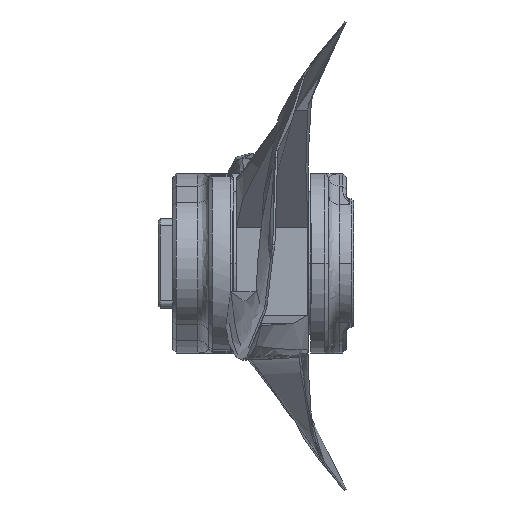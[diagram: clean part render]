
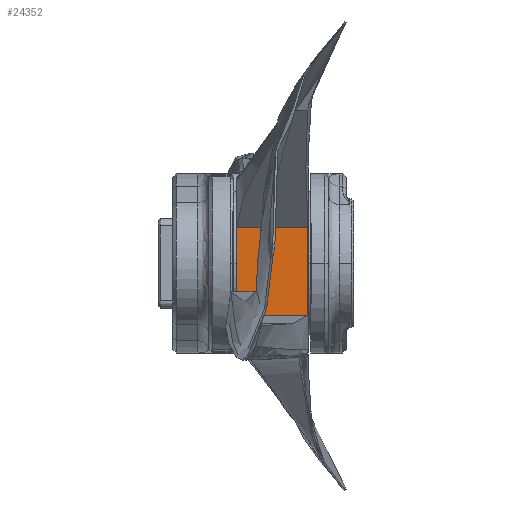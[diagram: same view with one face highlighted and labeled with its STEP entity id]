
A CAD part, left-side view. The second image highlights one B-rep face of the part: STEP entity #24352.
In plain terms, the highlighted planar face has unit normal (-1, 0, -0.012).
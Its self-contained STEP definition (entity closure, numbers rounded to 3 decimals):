
#1709 = CARTESIAN_POINT ( 'NONE',  ( -77.685, -10.61, -14.447 ) ) ;
#2749 = DIRECTION ( 'NONE',  ( 0., -1., 0. ) ) ;
#5032 = CARTESIAN_POINT ( 'NONE',  ( -77.838, 9.264, -2.174 ) ) ;
#5743 = CARTESIAN_POINT ( 'NONE',  ( -77.685, -22.162, -14.447 ) ) ;
#7330 = AXIS2_PLACEMENT_3D ( 'NONE', #34716, #15471, #18478 ) ;
#8268 = CARTESIAN_POINT ( 'NONE',  ( -77.991, -22.162, 10.099 ) ) ;
#8355 = CARTESIAN_POINT ( 'NONE',  ( -77.889, -10.651, 1.917 ) ) ;
#8361 = VERTEX_POINT ( 'NONE', #27738 ) ;
#8661 = CARTESIAN_POINT ( 'NONE',  ( -77.736, 9.287, -10.356 ) ) ;
#10493 = EDGE_CURVE ( 'NONE', #24248, #38382, #14469, .T. ) ;
#10596 = CARTESIAN_POINT ( 'NONE',  ( -77.889, 9.252, 1.917 ) ) ;
#11003 = ORIENTED_EDGE ( 'NONE', *, *, #25617, .T. ) ;
#11227 = CARTESIAN_POINT ( 'NONE',  ( -77.685, 9.294, -14.447 ) ) ;
#11554 = CARTESIAN_POINT ( 'NONE',  ( -77.838, -10.641, -2.174 ) ) ;
#14469 = LINE ( 'NONE', #8268, #25170 ) ;
#15471 = DIRECTION ( 'NONE',  ( 1., 0., 0.012 ) ) ;
#17982 = CARTESIAN_POINT ( 'NONE',  ( -77.94, -10.661, 6.008 ) ) ;
#18076 = VERTEX_POINT ( 'NONE', #28350 ) ;
#18194 = CARTESIAN_POINT ( 'NONE',  ( -77.736, -10.621, -10.356 ) ) ;
#18478 = DIRECTION ( 'NONE',  ( 0., 1., 0. ) ) ;
#18681 = FACE_OUTER_BOUND ( 'NONE', #32110, .T. ) ;
#19893 = EDGE_CURVE ( 'NONE', #24248, #18076, #38831, .T. ) ;
#22517 = ORIENTED_EDGE ( 'NONE', *, *, #19893, .F. ) ;
#23743 = CARTESIAN_POINT ( 'NONE',  ( -77.787, -10.631, -6.265 ) ) ;
#23891 = CARTESIAN_POINT ( 'NONE',  ( -77.991, 9.221, 10.099 ) ) ;
#24248 = VERTEX_POINT ( 'NONE', #40077 ) ;
#24352 = ADVANCED_FACE ( 'NONE', ( #18681 ), #31309, .F. ) ;
#25170 = VECTOR ( 'NONE', #27945, 1000. ) ;
#25216 = LINE ( 'NONE', #5743, #30630 ) ;
#25617 = EDGE_CURVE ( 'NONE', #8361, #18076, #25216, .T. ) ;
#25676 = B_SPLINE_CURVE_WITH_KNOTS ( 'NONE', 3,
 ( #26870, #39906, #10596, #5032, #28144, #8661, #11227 ),
 .UNSPECIFIED., .F., .F.,
 ( 4, 3, 4 ),
 ( 0., 0.012, 0.025 ),
 .UNSPECIFIED. ) ;
#26870 = CARTESIAN_POINT ( 'NONE',  ( -77.991, 9.221, 10.099 ) ) ;
#27738 = CARTESIAN_POINT ( 'NONE',  ( -77.685, 9.294, -14.447 ) ) ;
#27945 = DIRECTION ( 'NONE',  ( 0., 1., 0. ) ) ;
#28144 = CARTESIAN_POINT ( 'NONE',  ( -77.787, 9.276, -6.265 ) ) ;
#28350 = CARTESIAN_POINT ( 'NONE',  ( -77.685, -10.61, -14.447 ) ) ;
#30206 = EDGE_CURVE ( 'NONE', #38382, #8361, #25676, .T. ) ;
#30630 = VECTOR ( 'NONE', #2749, 1000. ) ;
#31309 = PLANE ( 'NONE',  #7330 ) ;
#32110 = EDGE_LOOP ( 'NONE', ( #22517, #34494, #40304, #11003 ) ) ;
#33595 = CARTESIAN_POINT ( 'NONE',  ( -77.991, -10.67, 10.099 ) ) ;
#34494 = ORIENTED_EDGE ( 'NONE', *, *, #10493, .T. ) ;
#34716 = CARTESIAN_POINT ( 'NONE',  ( -77.685, -22.162, -14.447 ) ) ;
#38382 = VERTEX_POINT ( 'NONE', #23891 ) ;
#38831 = B_SPLINE_CURVE_WITH_KNOTS ( 'NONE', 3,
 ( #33595, #17982, #8355, #11554, #23743, #18194, #1709 ),
 .UNSPECIFIED., .F., .F.,
 ( 4, 3, 4 ),
 ( 0., 0.012, 0.025 ),
 .UNSPECIFIED. ) ;
#39906 = CARTESIAN_POINT ( 'NONE',  ( -77.94, 9.238, 6.008 ) ) ;
#40077 = CARTESIAN_POINT ( 'NONE',  ( -77.991, -10.67, 10.099 ) ) ;
#40304 = ORIENTED_EDGE ( 'NONE', *, *, #30206, .T. ) ;
